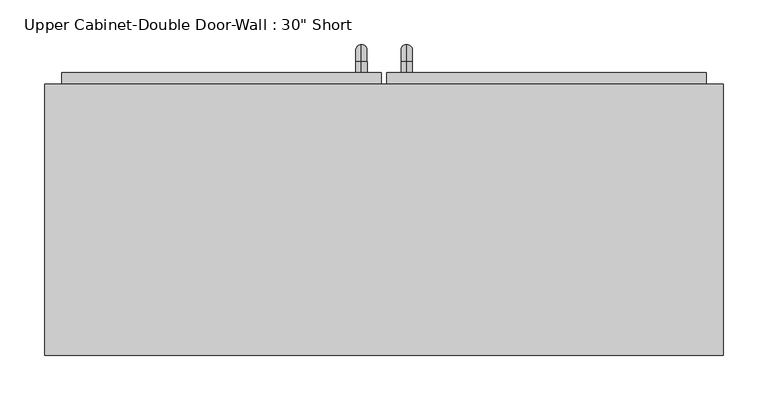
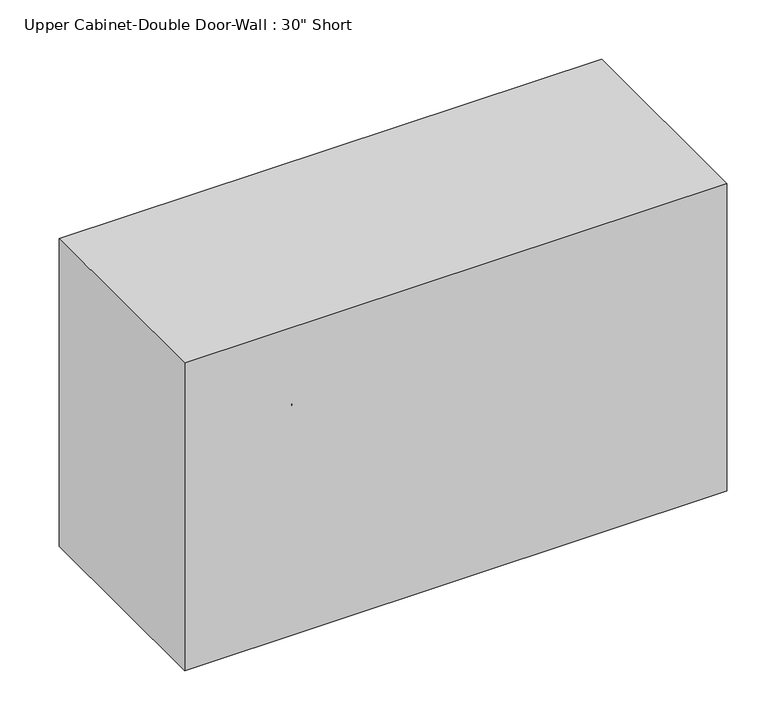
"""IFC4 building model written with IfcOpenShell, lengths in millimetres: furniture geometry."""

from ifc_helpers import new_model, si_unit, point, frame, origin, place, context, project, spatial, polyline, circle_curve, ellipse_curve, trimmed, outline, extrude, faceted_brep, source, transform, mapped, element, save
from ifc_brep_helpers import plane_surface, cylinder_surface, revolved_surface, advanced_brep


def furniture_f5f4f664(model_context):
    return source(origin(), model_context, "Body", "SolidModel", [
        faceted_brep([(-351.2288372, 57.15, 2133.6), (-351.2288372, 57.15, 1676.4), (410.7711628, 57.15, 1676.4), (410.7711628, 57.15, 2133.6), (-351.2288372, 361.95, 2133.6), (410.7711628, 361.95, 2133.6), (410.7711628, 361.95, 1676.4), (-351.2288372, 361.95, 1676.4), (-332.1788372, 361.95, 2114.55), (-332.1788372, 361.95, 1695.45), (391.7211628, 361.95, 1695.45), (391.7211628, 361.95, 2114.55), (391.7211628, 76.2, 2114.55), (-332.1788372, 76.2, 2114.55), (391.7211628, 76.2, 1695.45), (-332.1788372, 76.2, 1695.45)], [[[0, 1, 2, 3]], [[4, 5, 6, 7], [8, 9, 10, 11]], [[1, 0, 4, 7]], [[2, 1, 7, 6]], [[3, 2, 6, 5]], [[0, 3, 5, 4]], [[8, 11, 12, 13]], [[11, 10, 14, 12]], [[10, 9, 15, 14]], [[9, 8, 13, 15]], [[13, 12, 14, 15]]]),
        advanced_brep(
        [(55.1711628, 374.65, 1822.45), (55.1711628, 374.65, 1835.15), (55.1711628, 387.35, 1822.45), (55.1711628, 387.35, 1835.15), (55.1711628, 406.4, 1816.1), (55.1711628, 393.7, 1816.1), (55.1711628, 393.7, 1739.9), (55.1711628, 406.4, 1739.9), (55.1711628, 387.35, 1720.85), (55.1711628, 387.35, 1733.55), (55.1711628, 374.65, 1733.55), (55.1711628, 374.65, 1720.85)],
        [
            (0, 1, circle_curve(frame((55.1711628, 374.65, 1828.8), z_axis=(0.0, -1.0, 0.0), x_axis=(0.0, 0.0, -1.0)), 6.35)),
            (1, 0, circle_curve(frame((55.1711628, 374.65, 1828.8), z_axis=(0.0, -1.0, 0.0), x_axis=(0.0, 0.0, -1.0)), 6.35)),
            (0, 2),
            (2, 3, circle_curve(frame((55.1711628, 387.35, 1828.8), z_axis=(0.0, -1.0, 0.0), x_axis=(0.0, 0.0, -1.0)), 6.35)),
            (3, 1),
            (3, 2, circle_curve(frame((55.1711628, 387.35, 1828.8), z_axis=(0.0, -1.0, 0.0), x_axis=(0.0, 0.0, -1.0)), 6.35)),
            (4, 3, circle_curve(frame((55.1711628, 387.35, 1816.1), z_axis=(1.0, 0.0, 0.0), x_axis=(0.0, 0.0, 1.0)), 19.05)),
            (2, 5, circle_curve(frame((55.1711628, 387.35, 1816.1), z_axis=(-1.0, 0.0, 0.0), x_axis=(0.0, 0.0, 1.0)), 6.35)),
            (5, 4, circle_curve(frame((55.1711628, 400.05, 1816.1), z_axis=(0.0, 0.0, 1.0), x_axis=(0.0, -1.0, 0.0)), 6.35)),
            (4, 5, circle_curve(frame((55.1711628, 400.05, 1816.1), z_axis=(0.0, 0.0, 1.0), x_axis=(0.0, -1.0, 0.0)), 6.35)),
            (5, 6),
            (6, 7, circle_curve(frame((55.1711628, 400.05, 1739.9), z_axis=(0.0, 0.0, 1.0), x_axis=(0.0, -1.0, 0.0)), 6.35)),
            (7, 4),
            (7, 6, circle_curve(frame((55.1711628, 400.05, 1739.9), z_axis=(0.0, 0.0, 1.0), x_axis=(0.0, -1.0, 0.0)), 6.35)),
            (8, 7, circle_curve(frame((55.1711628, 387.35, 1739.9), z_axis=(1.0, 0.0, 0.0), x_axis=(0.0, 1.0, 0.0)), 19.05)),
            (6, 9, circle_curve(frame((55.1711628, 387.35, 1739.9), z_axis=(-1.0, 0.0, 0.0), x_axis=(0.0, 1.0, 0.0)), 6.35)),
            (9, 8, circle_curve(frame((55.1711628, 387.35, 1727.2), z_axis=(0.0, 1.0, 0.0), x_axis=(0.0, 0.0, 1.0)), 6.35)),
            (8, 9, circle_curve(frame((55.1711628, 387.35, 1727.2), z_axis=(0.0, 1.0, 0.0), x_axis=(0.0, 0.0, 1.0)), 6.35)),
            (10, 11, circle_curve(frame((55.1711628, 374.65, 1727.2), z_axis=(0.0, -1.0, 0.0), x_axis=(0.0, 0.0, 1.0)), 6.35)),
            (11, 10, circle_curve(frame((55.1711628, 374.65, 1727.2), z_axis=(0.0, -1.0, 0.0), x_axis=(0.0, 0.0, 1.0)), 6.35)),
            (9, 10),
            (11, 8),
        ],
        [
            plane_surface(frame((48.8211628, 374.65, 1828.8), z_axis=(0.0, -1.0, 0.0), x_axis=(0.0, 0.0, 1.0))),
            cylinder_surface(frame((55.1711628, 374.65, 1828.8), z_axis=(0.0, -1.0, 0.0), x_axis=(0.0, 0.0, -1.0)), 6.35),
            revolved_surface(trimmed(ellipse_curve(frame((55.1711628, 387.35, 1828.8), z_axis=(0.0, -1.0, 0.0), x_axis=(0.0, 0.0, -1.0)), 6.35, 6.35), [point((55.1711628, 387.35, 1822.45))], [point((55.1711628, 387.35, 1835.15))], True, "CARTESIAN"), (55.1711628, 387.35, 1816.1), (-1.0, 0.0, 0.0)),
            revolved_surface(trimmed(ellipse_curve(frame((55.1711628, 387.35, 1828.8), z_axis=(0.0, -1.0, 0.0), x_axis=(0.0, 0.0, -1.0)), 6.35, 6.35), [point((55.1711628, 387.35, 1835.15))], [point((55.1711628, 387.35, 1822.45))], True, "CARTESIAN"), (55.1711628, 387.35, 1816.1), (-1.0, 0.0, 0.0)),
            cylinder_surface(frame((55.1711628, 400.05, 1816.1), z_axis=(0.0, 0.0, 1.0), x_axis=(0.0, -1.0, 0.0)), 6.35),
            revolved_surface(trimmed(ellipse_curve(frame((55.1711628, 400.05, 1739.9), z_axis=(0.0, 0.0, 1.0), x_axis=(0.0, -1.0, 0.0)), 6.35, 6.35), [point((55.1711628, 393.7, 1739.9))], [point((55.1711628, 406.4, 1739.9))], True, "CARTESIAN"), (55.1711628, 387.35, 1739.9), (-1.0, 0.0, 0.0)),
            revolved_surface(trimmed(ellipse_curve(frame((55.1711628, 400.05, 1739.9), z_axis=(0.0, 0.0, 1.0), x_axis=(0.0, -1.0, 0.0)), 6.35, 6.35), [point((55.1711628, 406.4, 1739.9))], [point((55.1711628, 393.7, 1739.9))], True, "CARTESIAN"), (55.1711628, 387.35, 1739.9), (-1.0, 0.0, 0.0)),
            plane_surface(frame((48.8211628, 374.65, 1727.2), z_axis=(0.0, -1.0, 0.0), x_axis=(0.0, 0.0, -1.0))),
            cylinder_surface(frame((55.1711628, 387.35, 1727.2), z_axis=(0.0, 1.0, 0.0), x_axis=(0.0, 0.0, 1.0)), 6.35),
        ],
        [
            (0, [[1, 2]]),
            (1, [[-1, 3, 4, 5]]),
            (1, [[-2, -5, 6, -3]]),
            (2, [[7, -4, 8, 9]]),
            (3, [[-8, -6, -7, 10]]),
            (4, [[-9, 11, 12, 13]]),
            (4, [[-10, -13, 14, -11]]),
            (5, [[15, -12, 16, 17]]),
            (6, [[-16, -14, -15, 18]]),
            (7, [[19, 20]]),
            (8, [[-17, 21, -20, 22]]),
            (8, [[-18, -22, -19, -21]]),
        ],
    ),
        advanced_brep(
        [(4.3711628, 374.65, 1822.45), (4.3711628, 374.65, 1835.15), (4.3711628, 387.35, 1822.45), (4.3711628, 387.35, 1835.15), (4.3711628, 406.4, 1816.1), (4.3711628, 393.7, 1816.1), (4.3711628, 393.7, 1739.9), (4.3711628, 406.4, 1739.9), (4.3711628, 387.35, 1720.85), (4.3711628, 387.35, 1733.55), (4.3711628, 374.65, 1733.55), (4.3711628, 374.65, 1720.85)],
        [
            (0, 1, circle_curve(frame((4.3711628, 374.65, 1828.8), z_axis=(0.0, -1.0, 0.0), x_axis=(0.0, 0.0, 1.0)), 6.35)),
            (1, 0, circle_curve(frame((4.3711628, 374.65, 1828.8), z_axis=(0.0, -1.0, 0.0), x_axis=(0.0, 0.0, 1.0)), 6.35)),
            (0, 2),
            (2, 3, circle_curve(frame((4.3711628, 387.35, 1828.8), z_axis=(0.0, -1.0, 0.0), x_axis=(0.0, 0.0, 1.0)), 6.35)),
            (3, 1),
            (3, 2, circle_curve(frame((4.3711628, 387.35, 1828.8), z_axis=(0.0, -1.0, 0.0), x_axis=(0.0, 0.0, 1.0)), 6.35)),
            (4, 3, circle_curve(frame((4.3711628, 387.35, 1816.1), z_axis=(1.0, 0.0, 0.0), x_axis=(0.0, 0.0, 1.0)), 19.05)),
            (2, 5, circle_curve(frame((4.3711628, 387.35, 1816.1), z_axis=(-1.0, 0.0, 0.0), x_axis=(0.0, 0.0, 1.0)), 6.35)),
            (5, 4, circle_curve(frame((4.3711628, 400.05, 1816.1), z_axis=(0.0, 0.0, 1.0), x_axis=(0.0, 1.0, 0.0)), 6.35)),
            (4, 5, circle_curve(frame((4.3711628, 400.05, 1816.1), z_axis=(0.0, 0.0, 1.0), x_axis=(0.0, 1.0, 0.0)), 6.35)),
            (5, 6),
            (6, 7, circle_curve(frame((4.3711628, 400.05, 1739.9), z_axis=(0.0, 0.0, 1.0), x_axis=(0.0, 1.0, 0.0)), 6.35)),
            (7, 4),
            (7, 6, circle_curve(frame((4.3711628, 400.05, 1739.9), z_axis=(0.0, 0.0, 1.0), x_axis=(0.0, 1.0, 0.0)), 6.35)),
            (8, 7, circle_curve(frame((4.3711628, 387.35, 1739.9), z_axis=(1.0, 0.0, 0.0), x_axis=(0.0, 1.0, 0.0)), 19.05)),
            (6, 9, circle_curve(frame((4.3711628, 387.35, 1739.9), z_axis=(-1.0, 0.0, 0.0), x_axis=(0.0, 1.0, 0.0)), 6.35)),
            (9, 8, circle_curve(frame((4.3711628, 387.35, 1727.2), z_axis=(0.0, 1.0, 0.0), x_axis=(0.0, 0.0, -1.0)), 6.35)),
            (8, 9, circle_curve(frame((4.3711628, 387.35, 1727.2), z_axis=(0.0, 1.0, 0.0), x_axis=(0.0, 0.0, -1.0)), 6.35)),
            (10, 11, circle_curve(frame((4.3711628, 374.65, 1727.2), z_axis=(0.0, -1.0, 0.0), x_axis=(0.0, 0.0, -1.0)), 6.35)),
            (11, 10, circle_curve(frame((4.3711628, 374.65, 1727.2), z_axis=(0.0, -1.0, 0.0), x_axis=(0.0, 0.0, -1.0)), 6.35)),
            (9, 10),
            (11, 8),
        ],
        [
            plane_surface(frame((-1.9788372, 374.65, 1828.8), z_axis=(0.0, -1.0, 0.0), x_axis=(0.0, 0.0, 1.0))),
            cylinder_surface(frame((4.3711628, 374.65, 1828.8), z_axis=(0.0, -1.0, 0.0), x_axis=(0.0, 0.0, 1.0)), 6.35),
            revolved_surface(trimmed(ellipse_curve(frame((4.3711628, 387.35, 1828.8), z_axis=(0.0, -1.0, 0.0), x_axis=(0.0, 0.0, 1.0)), 6.35, 6.35), [point((4.3711628, 387.35, 1822.45))], [point((4.3711628, 387.35, 1835.15))], True, "CARTESIAN"), (4.3711628, 387.35, 1816.1), (-1.0, 0.0, 0.0)),
            revolved_surface(trimmed(ellipse_curve(frame((4.3711628, 387.35, 1828.8), z_axis=(0.0, -1.0, 0.0), x_axis=(0.0, 0.0, 1.0)), 6.35, 6.35), [point((4.3711628, 387.35, 1835.15))], [point((4.3711628, 387.35, 1822.45))], True, "CARTESIAN"), (4.3711628, 387.35, 1816.1), (-1.0, 0.0, 0.0)),
            cylinder_surface(frame((4.3711628, 400.05, 1816.1), z_axis=(0.0, 0.0, 1.0), x_axis=(0.0, 1.0, 0.0)), 6.35),
            revolved_surface(trimmed(ellipse_curve(frame((4.3711628, 400.05, 1739.9), z_axis=(0.0, 0.0, 1.0), x_axis=(0.0, 1.0, 0.0)), 6.35, 6.35), [point((4.3711628, 393.7, 1739.9))], [point((4.3711628, 406.4, 1739.9))], True, "CARTESIAN"), (4.3711628, 387.35, 1739.9), (-1.0, 0.0, 0.0)),
            revolved_surface(trimmed(ellipse_curve(frame((4.3711628, 400.05, 1739.9), z_axis=(0.0, 0.0, 1.0), x_axis=(0.0, 1.0, 0.0)), 6.35, 6.35), [point((4.3711628, 406.4, 1739.9))], [point((4.3711628, 393.7, 1739.9))], True, "CARTESIAN"), (4.3711628, 387.35, 1739.9), (-1.0, 0.0, 0.0)),
            plane_surface(frame((-1.9788372, 374.65, 1727.2), z_axis=(0.0, -1.0, 0.0), x_axis=(0.0, 0.0, -1.0))),
            cylinder_surface(frame((4.3711628, 387.35, 1727.2), z_axis=(0.0, 1.0, 0.0), x_axis=(0.0, 0.0, -1.0)), 6.35),
        ],
        [
            (0, [[1, 2]]),
            (1, [[-1, 3, 4, 5]]),
            (1, [[-2, -5, 6, -3]]),
            (2, [[7, -4, 8, 9]]),
            (3, [[-8, -6, -7, 10]]),
            (4, [[-9, 11, 12, 13]]),
            (4, [[-10, -13, 14, -11]]),
            (5, [[15, -12, 16, 17]]),
            (6, [[-16, -14, -15, 18]]),
            (7, [[19, 20]]),
            (8, [[-17, 21, -20, 22]]),
            (8, [[-18, -22, -19, -21]]),
        ],
    ),
        extrude(outline(polyline([(32.9461628, 374.65), (391.7211628, 374.65), (391.7211628, 342.9), (32.9461628, 342.9), (32.9461628, 374.65)])), frame((0.0, 0.0, 1695.45), z_axis=(0.0, 0.0, 1.0), x_axis=(1.0, 0.0, 0.0)), (0.0, 0.0, 1.0), 419.1),
        extrude(outline(polyline([(-332.1788372, 374.65), (26.5961628, 374.65), (26.5961628, 342.9), (-332.1788372, 342.9), (-332.1788372, 374.65)])), frame((0.0, 0.0, 1695.45), z_axis=(0.0, 0.0, 1.0), x_axis=(1.0, 0.0, 0.0)), (0.0, 0.0, 1.0), 419.1),
    ])


if __name__ == "__main__":
    model = new_model("IFC4")
    model_context = context("Model", 3, world=origin())
    ifc_project = project(units=[si_unit("LENGTHUNIT", "METRE", prefix="MILLI")], contexts=[model_context])
    site = spatial("IfcSite", under=ifc_project)
    building = spatial("IfcBuilding", under=site)
    placement = place(None, origin())
    furniture_shape = furniture_f5f4f664(model_context)
    element("IfcFurniture", 1, ObjectType="Upper Cabinet-Double Door-Wall : 30\" Short", at=placement, inside=building, context=model_context, shape_type="MappedRepresentation", body=[
        mapped(furniture_shape, transform((0.0, 0.0, 0.0), x_axis=(1.0, 0.0, 0.0), y_axis=(0.0, 1.0, 0.0), z_axis=(0.0, 0.0, 1.0))),
    ])
    save(model, "model.ifc")
